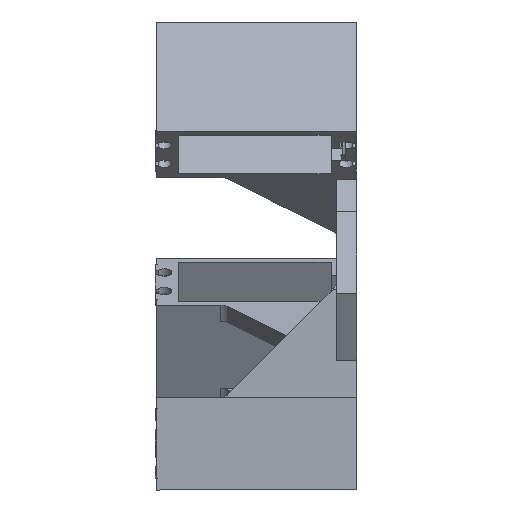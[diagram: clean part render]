
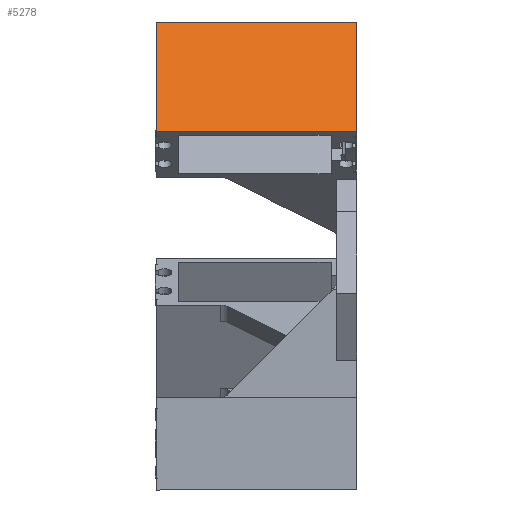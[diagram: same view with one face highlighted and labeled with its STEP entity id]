
A CAD part, left-side view. The second image highlights one B-rep face of the part: STEP entity #5278.
In plain terms, the highlighted planar face has unit normal (-0.866, 0, 0.5).
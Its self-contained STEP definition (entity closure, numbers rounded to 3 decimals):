
#534=FACE_OUTER_BOUND('',#801,.T.);
#801=EDGE_LOOP('',(#4829,#4830,#4831,#4832));
#1112=LINE('',#8035,#1712);
#1140=LINE('',#8115,#1740);
#1227=LINE('',#8311,#1827);
#1405=LINE('',#8739,#2005);
#1712=VECTOR('',#6380,10.);
#1740=VECTOR('',#6440,10.);
#1827=VECTOR('',#6619,10.);
#2005=VECTOR('',#7163,31.);
#2358=VERTEX_POINT('',#8032);
#2359=VERTEX_POINT('',#8034);
#2395=VERTEX_POINT('',#8113);
#2458=VERTEX_POINT('',#8309);
#2948=EDGE_CURVE('',#2359,#2358,#1112,.T.);
#2988=EDGE_CURVE('',#2358,#2395,#1140,.T.);
#3094=EDGE_CURVE('',#2458,#2395,#1227,.T.);
#3298=EDGE_CURVE('',#2359,#2458,#1405,.T.);
#4829=ORIENTED_EDGE('',*,*,#3298,.F.);
#4830=ORIENTED_EDGE('',*,*,#2948,.T.);
#4831=ORIENTED_EDGE('',*,*,#2988,.T.);
#4832=ORIENTED_EDGE('',*,*,#3094,.F.);
#5024=PLANE('',#5721);
#5278=ADVANCED_FACE('',(#534),#5024,.T.);
#5721=AXIS2_PLACEMENT_3D('',#8745,#7172,#7173);
#6380=DIRECTION('',(0.,-1.,0.));
#6440=DIRECTION('',(0.5,0.,0.866));
#6619=DIRECTION('',(0.,-1.,0.));
#7163=DIRECTION('',(0.5,0.,0.866));
#7172=DIRECTION('center_axis',(-0.866,0.,0.5));
#7173=DIRECTION('ref_axis',(0.5,0.,0.866));
#8032=CARTESIAN_POINT('',(-40.989,-1.4,47.242));
#8034=CARTESIAN_POINT('',(-40.989,52.5,47.242));
#8035=CARTESIAN_POINT('',(-40.989,0.,47.242));
#8113=CARTESIAN_POINT('',(-23.989,-1.4,76.686));
#8115=CARTESIAN_POINT('',(-25.489,-1.4,74.088));
#8309=CARTESIAN_POINT('',(-23.989,52.5,76.686));
#8311=CARTESIAN_POINT('',(-23.989,-1.4,76.686));
#8739=CARTESIAN_POINT('',(-40.989,52.5,47.242));
#8745=CARTESIAN_POINT('Origin',(-46.257,4.,38.118));
